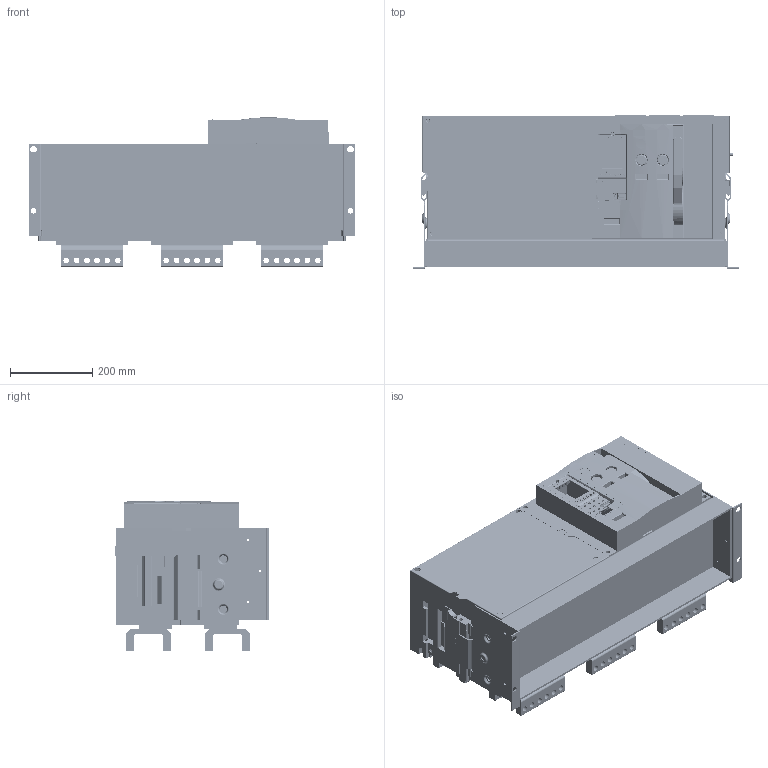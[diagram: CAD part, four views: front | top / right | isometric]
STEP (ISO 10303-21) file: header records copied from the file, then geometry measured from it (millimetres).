
FILE_DESCRIPTION (( 'STEP AP214' ), '1' );
FILE_NAME ('OptiMat A-S6-B-6300-3P-F-H.STEP', '2025-02-10T11:14:47', ( '' ), ( '' ), 'SwSTEP 2.0', 'SolidWorks 2018', '' );
FILE_SCHEMA (( 'AUTOMOTIVE_DESIGN' ));
Length unit declared in the file: millimetre
Products named in the file (1): OptiMat A-S6-B-6300-3P-F-H
Bounding box: 792 x 372 x 362.81 mm (x, y, z)
Volume: 59628781 mm3; surface area: 3641480.1 mm2
Topology: 8 solids, 17 shells, 7013 faces, 18359 edges, 11689 vertices
Faces by surface type: plane 3306, cylinder 2396, cone 449, bspline 437, torus 369, sphere 56
Entity records: 294916 total; most frequent: CARTESIAN_POINT 77703, ORIENTED_EDGE 36636, DIRECTION 35288, EDGE_CURVE 18318, AXIS2_PLACEMENT_3D 12313, VERTEX_POINT 11683, LINE 10662, VECTOR 10662
